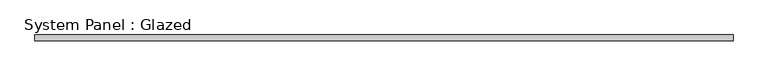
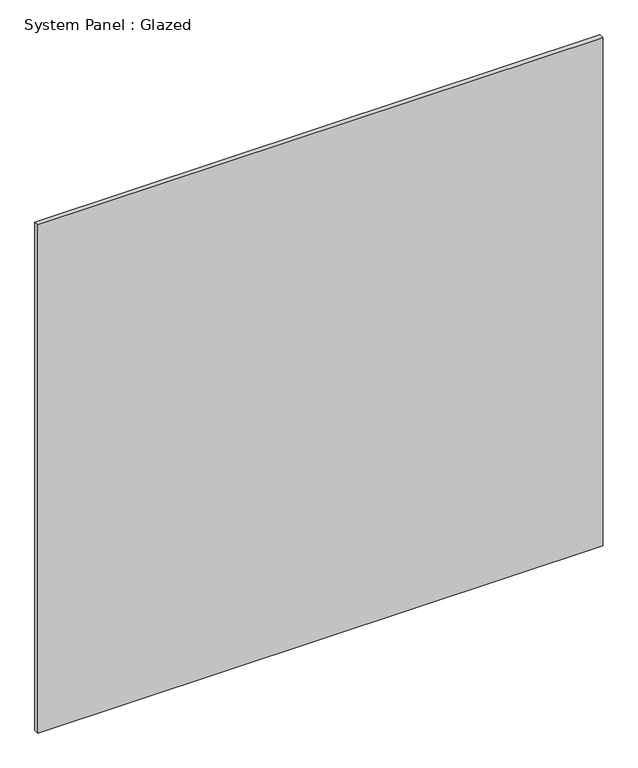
"""IFC4 building model written with IfcOpenShell, lengths in millimetres: plate geometry, System Panel : Glazed."""

from ifc_helpers import new_model, si_unit, origin, origin_with_axes, place, context, project, spatial, polyline, outline, extrude, source, transform, mapped, element, save


def system_panel_glazed_c45102e1(model_context):
    return source(origin(), model_context, "Body", "SweptSolid", [
        extrude(outline(polyline([(1447.5, 24.5), (-1447.5, 24.5), (-1447.5, 49.5), (1447.5, 49.5), (1447.5, 24.5)])), origin_with_axes(), (0.0, 0.0, 1.0), 2750.0),
    ])


if __name__ == "__main__":
    model = new_model("IFC4")
    model_context = context("Model", 3, world=origin())
    ifc_project = project(units=[si_unit("LENGTHUNIT", "METRE", prefix="MILLI")], contexts=[model_context])
    site = spatial("IfcSite", under=ifc_project)
    building = spatial("IfcBuilding", under=site)
    placement = place(None, origin())
    system_panel_glazed_shape = system_panel_glazed_c45102e1(model_context)
    element("IfcPlate", 1, ObjectType="System Panel : Glazed", at=placement, inside=building, context=model_context, shape_type="MappedRepresentation", body=[
        mapped(system_panel_glazed_shape, transform((0.0, 0.0, 0.0), x_axis=(1.0, 0.0, 0.0), y_axis=(0.0, 1.0, 0.0), z_axis=(0.0, 0.0, 1.0))),
    ])
    save(model, "model.ifc")
